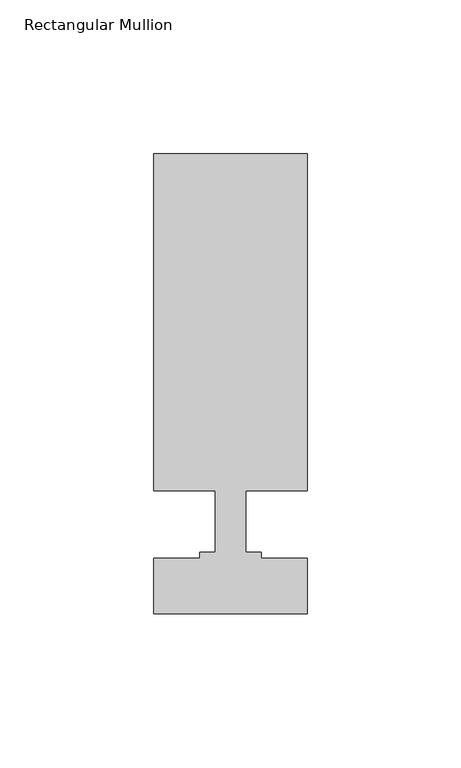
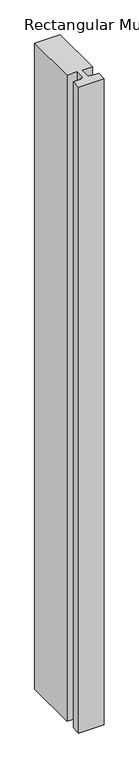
"""IFC4 building model written with IfcOpenShell, lengths in millimetres: member geometry, Rectangular Mullion : TR_CW_¸ALU_internal."""

from ifc_helpers import new_model, si_unit, frame, origin, place, context, project, spatial, polyline, outline, extrude, source, transform, mapped, element, save


def rectangular_mullion_61975473(model_context):
    return source(origin(), model_context, "Body", "SweptSolid", [
        extrude(outline(polyline([(25.0, 0.0), (-25.0, 0.0), (-25.0, 18.0204111), (-10.0, 18.0204111), (-10.0, 20.0), (-5.0, 20.0), (-5.0, 40.0), (-25.0, 40.0), (-25.0, 149.8096073), (25.0, 149.8096073), (25.0, 40.0), (5.0, 40.0), (5.0, 20.0), (10.0, 20.0), (10.0, 18.0204111), (25.0, 18.0204111), (25.0, 0.0)])), frame((0.0, 0.0, -1343.0), z_axis=(0.0, 0.0, 1.0), x_axis=(1.0, 0.0, 0.0)), (0.0, 0.0, 1.0), 1343.0),
    ])


if __name__ == "__main__":
    model = new_model("IFC4")
    model_context = context("Model", 3, world=origin())
    ifc_project = project(units=[si_unit("LENGTHUNIT", "METRE", prefix="MILLI")], contexts=[model_context])
    site = spatial("IfcSite", under=ifc_project)
    building = spatial("IfcBuilding", under=site)
    placement = place(None, origin())
    rectangular_mullion_shape = rectangular_mullion_61975473(model_context)
    element("IfcMember", 1, ObjectType="Rectangular Mullion : TR_CW_¸ALU_internal", at=placement, inside=building, context=model_context, shape_type="MappedRepresentation", body=[
        mapped(rectangular_mullion_shape, transform((0.0, 0.0, 0.0), x_axis=(1.0, 0.0, 0.0), y_axis=(0.0, 1.0, 0.0), z_axis=(0.0, 0.0, 1.0))),
    ])
    save(model, "model.ifc")
